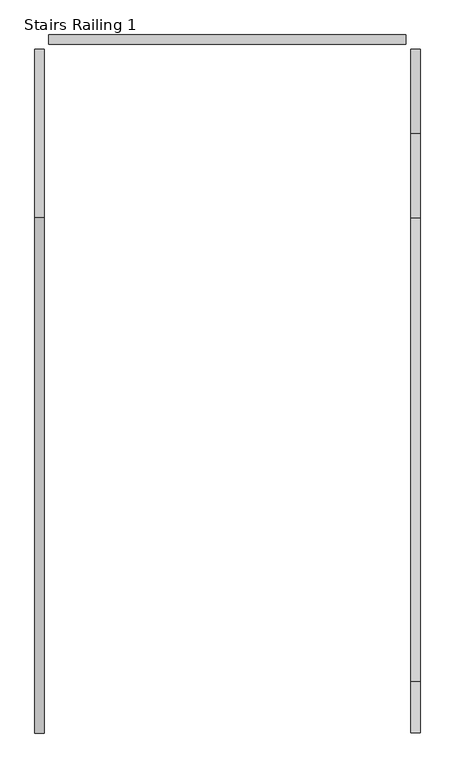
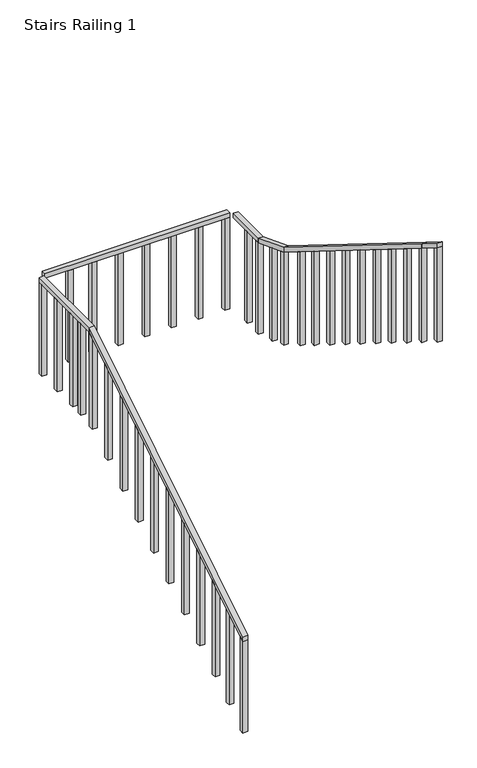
"""IFC4 building model written with IfcOpenShell, lengths in millimetres: railing geometry, Stairs Railing 1."""

from ifc_helpers import new_model, si_unit, frame, origin, place, context, project, spatial, polyline, outline, extrude, source, transform, mapped, element, save


def stairs_railing_1_87609967(model_context):
    return source(origin(), model_context, "Body", "SweptSolid", [
        extrude(outline(polyline([(13993.1758882, 2982.6857143), (13993.1758882, 2931.8857143), (11199.1758882, 1190.1714286), (11199.1758882, 1240.9714286), (13993.1758882, 2982.6857143)])), frame((1450.3543833, 0.0, 0.0), z_axis=(1.0, 0.0, 0.0), x_axis=(0.0, 1.0, 0.0)), (0.0, 0.0, 1.0), 50.8),
        extrude(outline(polyline([(11249.9758882, 1221.838961), (11249.9758882, 174.1714286), (11199.1758882, 174.1714286), (11199.1758882, 1190.1714286), (11249.9758882, 1221.838961)])), frame((1450.3543833, 0.0, 0.0), z_axis=(1.0, 0.0, 0.0), x_axis=(0.0, 1.0, 0.0)), (0.0, 0.0, 1.0), 50.8),
        extrude(outline(polyline([(11503.9758882, 1380.1766234), (11503.9758882, 332.5090909), (11453.1758882, 332.5090909), (11453.1758882, 1348.5090909), (11503.9758882, 1380.1766234)])), frame((1450.3543833, 0.0, 0.0), z_axis=(1.0, 0.0, 0.0), x_axis=(0.0, 1.0, 0.0)), (0.0, 0.0, 1.0), 50.8),
        extrude(outline(polyline([(11757.9758882, 1538.5142857), (11757.9758882, 490.8467532), (11707.1758882, 490.8467532), (11707.1758882, 1506.8467532), (11757.9758882, 1538.5142857)])), frame((1450.3543833, 0.0, 0.0), z_axis=(1.0, 0.0, 0.0), x_axis=(0.0, 1.0, 0.0)), (0.0, 0.0, 1.0), 50.8),
        extrude(outline(polyline([(12037.3758882, 1712.6857143), (12037.3758882, 665.0181818), (11986.5758882, 665.0181818), (11986.5758882, 1681.0181818), (12037.3758882, 1712.6857143)])), frame((1450.3543833, 0.0, 0.0), z_axis=(1.0, 0.0, 0.0), x_axis=(0.0, 1.0, 0.0)), (0.0, 0.0, 1.0), 50.8),
        extrude(outline(polyline([(12316.7758882, 1886.8571429), (12316.7758882, 839.1896104), (12265.9758882, 839.1896104), (12265.9758882, 1855.1896104), (12316.7758882, 1886.8571429)])), frame((1450.3543833, 0.0, 0.0), z_axis=(1.0, 0.0, 0.0), x_axis=(0.0, 1.0, 0.0)), (0.0, 0.0, 1.0), 50.8),
        extrude(outline(polyline([(12596.1758882, 2061.0285714), (12596.1758882, 1013.361039), (12545.3758882, 1013.361039), (12545.3758882, 2029.361039), (12596.1758882, 2061.0285714)])), frame((1450.3543833, 0.0, 0.0), z_axis=(1.0, 0.0, 0.0), x_axis=(0.0, 1.0, 0.0)), (0.0, 0.0, 1.0), 50.8),
        extrude(outline(polyline([(12875.5758882, 2235.2), (12875.5758882, 1187.5324675), (12824.7758882, 1187.5324675), (12824.7758882, 2203.5324675), (12875.5758882, 2235.2)])), frame((1450.3543833, 0.0, 0.0), z_axis=(1.0, 0.0, 0.0), x_axis=(0.0, 1.0, 0.0)), (0.0, 0.0, 1.0), 50.8),
        extrude(outline(polyline([(13154.9758882, 2409.3714286), (13154.9758882, 1361.7038961), (13104.1758882, 1361.7038961), (13104.1758882, 2377.7038961), (13154.9758882, 2409.3714286)])), frame((1450.3543833, 0.0, 0.0), z_axis=(1.0, 0.0, 0.0), x_axis=(0.0, 1.0, 0.0)), (0.0, 0.0, 1.0), 50.8),
        extrude(outline(polyline([(13434.3758882, 2583.5428571), (13434.3758882, 1535.8753247), (13383.5758882, 1535.8753247), (13383.5758882, 2551.8753247), (13434.3758882, 2583.5428571)])), frame((1450.3543833, 0.0, 0.0), z_axis=(1.0, 0.0, 0.0), x_axis=(0.0, 1.0, 0.0)), (0.0, 0.0, 1.0), 50.8),
        extrude(outline(polyline([(13713.7758882, 2757.7142857), (13713.7758882, 1710.0467532), (13662.9758882, 1710.0467532), (13662.9758882, 2726.0467532), (13713.7758882, 2757.7142857)])), frame((1450.3543833, 0.0, 0.0), z_axis=(1.0, 0.0, 0.0), x_axis=(0.0, 1.0, 0.0)), (0.0, 0.0, 1.0), 50.8),
        extrude(outline(polyline([(13993.1758882, 2931.8857143), (13993.1758882, 1884.2181818), (13942.3758882, 1884.2181818), (13942.3758882, 2900.2181818), (13993.1758882, 2931.8857143)])), frame((1450.3543833, 0.0, 0.0), z_axis=(1.0, 0.0, 0.0), x_axis=(0.0, 1.0, 0.0)), (0.0, 0.0, 1.0), 50.8),
        extrude(outline(polyline([(1450.3543833, 14907.5758882), (1501.1543833, 14907.5758882), (1501.1543833, 13993.1758882), (1450.3543833, 13993.1758882), (1450.3543833, 14907.5758882)])), frame((0.0, 0.0, 2931.8857143), z_axis=(0.0, 0.0, 1.0), x_axis=(1.0, 0.0, 0.0)), (0.0, 0.0, 1.0), 50.8),
        extrude(outline(polyline([(1501.1543833, 14145.5758882), (1450.3543833, 14145.5758882), (1450.3543833, 14196.3758882), (1501.1543833, 14196.3758882), (1501.1543833, 14145.5758882)])), frame((0.0, 0.0, 1915.8857143), z_axis=(0.0, 0.0, 1.0), x_axis=(1.0, 0.0, 0.0)), (0.0, 0.0, 1.0), 1016.0),
        extrude(outline(polyline([(1501.1543833, 14297.9758882), (1450.3543833, 14297.9758882), (1450.3543833, 14348.7758882), (1501.1543833, 14348.7758882), (1501.1543833, 14297.9758882)])), frame((0.0, 0.0, 1915.8857143), z_axis=(0.0, 0.0, 1.0), x_axis=(1.0, 0.0, 0.0)), (0.0, 0.0, 1.0), 1016.0),
        extrude(outline(polyline([(1501.1543833, 14577.3758882), (1450.3543833, 14577.3758882), (1450.3543833, 14628.1758882), (1501.1543833, 14628.1758882), (1501.1543833, 14577.3758882)])), frame((0.0, 0.0, 1915.8857143), z_axis=(0.0, 0.0, 1.0), x_axis=(1.0, 0.0, 0.0)), (0.0, 0.0, 1.0), 1016.0),
        extrude(outline(polyline([(1501.1543833, 14856.7758882), (1450.3543833, 14856.7758882), (1450.3543833, 14907.5758882), (1501.1543833, 14907.5758882), (1501.1543833, 14856.7758882)])), frame((0.0, 0.0, 1915.8857143), z_axis=(0.0, 0.0, 1.0), x_axis=(1.0, 0.0, 0.0)), (0.0, 0.0, 1.0), 1016.0),
        extrude(outline(polyline([(3464.956482, 14983.7758882), (3464.956482, 14932.9758882), (1526.5543833, 14932.9758882), (1526.5543833, 14983.7758882), (3464.956482, 14983.7758882)])), frame((0.0, 0.0, 2931.8857143), z_axis=(0.0, 0.0, 1.0), x_axis=(1.0, 0.0, 0.0)), (0.0, 0.0, 1.0), 50.8),
        extrude(outline(polyline([(1771.8554326, 14932.9758882), (1771.8554326, 14983.7758882), (1822.6554326, 14983.7758882), (1822.6554326, 14932.9758882), (1771.8554326, 14932.9758882)])), frame((0.0, 0.0, 1915.8857143), z_axis=(0.0, 0.0, 1.0), x_axis=(1.0, 0.0, 0.0)), (0.0, 0.0, 1.0), 1016.0),
        extrude(outline(polyline([(2017.156482, 14932.9758882), (2017.156482, 14983.7758882), (2067.956482, 14983.7758882), (2067.956482, 14932.9758882), (2017.156482, 14932.9758882)])), frame((0.0, 0.0, 1915.8857143), z_axis=(0.0, 0.0, 1.0), x_axis=(1.0, 0.0, 0.0)), (0.0, 0.0, 1.0), 1016.0),
        extrude(outline(polyline([(2296.556482, 14932.9758882), (2296.556482, 14983.7758882), (2347.356482, 14983.7758882), (2347.356482, 14932.9758882), (2296.556482, 14932.9758882)])), frame((0.0, 0.0, 1915.8857143), z_axis=(0.0, 0.0, 1.0), x_axis=(1.0, 0.0, 0.0)), (0.0, 0.0, 1.0), 1016.0),
        extrude(outline(polyline([(2575.956482, 14932.9758882), (2575.956482, 14983.7758882), (2626.756482, 14983.7758882), (2626.756482, 14932.9758882), (2575.956482, 14932.9758882)])), frame((0.0, 0.0, 1915.8857143), z_axis=(0.0, 0.0, 1.0), x_axis=(1.0, 0.0, 0.0)), (0.0, 0.0, 1.0), 1016.0),
        extrude(outline(polyline([(2855.356482, 14932.9758882), (2855.356482, 14983.7758882), (2906.156482, 14983.7758882), (2906.156482, 14932.9758882), (2855.356482, 14932.9758882)])), frame((0.0, 0.0, 1915.8857143), z_axis=(0.0, 0.0, 1.0), x_axis=(1.0, 0.0, 0.0)), (0.0, 0.0, 1.0), 1016.0),
        extrude(outline(polyline([(3134.756482, 14932.9758882), (3134.756482, 14983.7758882), (3185.556482, 14983.7758882), (3185.556482, 14932.9758882), (3134.756482, 14932.9758882)])), frame((0.0, 0.0, 1915.8857143), z_axis=(0.0, 0.0, 1.0), x_axis=(1.0, 0.0, 0.0)), (0.0, 0.0, 1.0), 1016.0),
        extrude(outline(polyline([(3414.156482, 14932.9758882), (3414.156482, 14983.7758882), (3464.956482, 14983.7758882), (3464.956482, 14932.9758882), (3414.156482, 14932.9758882)])), frame((0.0, 0.0, 1915.8857143), z_axis=(0.0, 0.0, 1.0), x_axis=(1.0, 0.0, 0.0)), (0.0, 0.0, 1.0), 1016.0),
        extrude(outline(polyline([(3541.156482, 14450.3758882), (3490.356482, 14450.3758882), (3490.356482, 14907.5758882), (3541.156482, 14907.5758882), (3541.156482, 14450.3758882)])), frame((0.0, 0.0, 2931.8857143), z_axis=(0.0, 0.0, 1.0), x_axis=(1.0, 0.0, 0.0)), (0.0, 0.0, 1.0), 50.8),
        extrude(outline(polyline([(3490.356482, 14704.3758882), (3541.156482, 14704.3758882), (3541.156482, 14653.5758882), (3490.356482, 14653.5758882), (3490.356482, 14704.3758882)])), frame((0.0, 0.0, 1915.8857143), z_axis=(0.0, 0.0, 1.0), x_axis=(1.0, 0.0, 0.0)), (0.0, 0.0, 1.0), 1016.0),
        extrude(outline(polyline([(3490.356482, 14501.1758882), (3541.156482, 14501.1758882), (3541.156482, 14450.3758882), (3490.356482, 14450.3758882), (3490.356482, 14501.1758882)])), frame((0.0, 0.0, 1915.8857143), z_axis=(0.0, 0.0, 1.0), x_axis=(1.0, 0.0, 0.0)), (0.0, 0.0, 1.0), 1016.0),
        extrude(outline(polyline([(13993.1758882, 3106.0571429), (13993.1758882, 3156.8571429), (14450.3758882, 2982.6857143), (14450.3758882, 2931.8857143), (13993.1758882, 3106.0571429)])), frame((3490.356482, 0.0, 0.0), z_axis=(1.0, 0.0, 0.0), x_axis=(0.0, 1.0, 0.0)), (0.0, 0.0, 1.0), 50.8),
        extrude(outline(polyline([(14247.1758882, 3009.2952381), (14247.1758882, 1993.2952381), (14196.3758882, 1993.2952381), (14196.3758882, 3028.647619), (14247.1758882, 3009.2952381)])), frame((3490.356482, 0.0, 0.0), z_axis=(1.0, 0.0, 0.0), x_axis=(0.0, 1.0, 0.0)), (0.0, 0.0, 1.0), 50.8),
        extrude(outline(polyline([(14043.9758882, 3086.7047619), (14043.9758882, 2070.7047619), (13993.1758882, 2070.7047619), (13993.1758882, 3106.0571429), (14043.9758882, 3086.7047619)])), frame((3490.356482, 0.0, 0.0), z_axis=(1.0, 0.0, 0.0), x_axis=(0.0, 1.0, 0.0)), (0.0, 0.0, 1.0), 50.8),
        extrude(outline(polyline([(11478.5758882, 4673.6), (11478.5758882, 4724.4), (13993.1758882, 3156.8571429), (13993.1758882, 3106.0571429), (11478.5758882, 4673.6)])), frame((3490.356482, 0.0, 0.0), z_axis=(1.0, 0.0, 0.0), x_axis=(0.0, 1.0, 0.0)), (0.0, 0.0, 1.0), 50.8),
        extrude(outline(polyline([(13739.1758882, 3264.3948052), (13739.1758882, 2248.3948052), (13688.3758882, 2248.3948052), (13688.3758882, 3296.0623377), (13739.1758882, 3264.3948052)])), frame((3490.356482, 0.0, 0.0), z_axis=(1.0, 0.0, 0.0), x_axis=(0.0, 1.0, 0.0)), (0.0, 0.0, 1.0), 50.8),
        extrude(outline(polyline([(13485.1758882, 3422.7324675), (13485.1758882, 2406.7324675), (13434.3758882, 2406.7324675), (13434.3758882, 3454.4), (13485.1758882, 3422.7324675)])), frame((3490.356482, 0.0, 0.0), z_axis=(1.0, 0.0, 0.0), x_axis=(0.0, 1.0, 0.0)), (0.0, 0.0, 1.0), 50.8),
        extrude(outline(polyline([(13205.7758882, 3596.9038961), (13205.7758882, 2580.9038961), (13154.9758882, 2580.9038961), (13154.9758882, 3628.5714286), (13205.7758882, 3596.9038961)])), frame((3490.356482, 0.0, 0.0), z_axis=(1.0, 0.0, 0.0), x_axis=(0.0, 1.0, 0.0)), (0.0, 0.0, 1.0), 50.8),
        extrude(outline(polyline([(12926.3758882, 3771.0753247), (12926.3758882, 2755.0753247), (12875.5758882, 2755.0753247), (12875.5758882, 3802.7428571), (12926.3758882, 3771.0753247)])), frame((3490.356482, 0.0, 0.0), z_axis=(1.0, 0.0, 0.0), x_axis=(0.0, 1.0, 0.0)), (0.0, 0.0, 1.0), 50.8),
        extrude(outline(polyline([(12646.9758882, 3945.2467532), (12646.9758882, 2929.2467532), (12596.1758882, 2929.2467532), (12596.1758882, 3976.9142857), (12646.9758882, 3945.2467532)])), frame((3490.356482, 0.0, 0.0), z_axis=(1.0, 0.0, 0.0), x_axis=(0.0, 1.0, 0.0)), (0.0, 0.0, 1.0), 50.8),
        extrude(outline(polyline([(12367.5758882, 4119.4181818), (12367.5758882, 3103.4181818), (12316.7758882, 3103.4181818), (12316.7758882, 4151.0857143), (12367.5758882, 4119.4181818)])), frame((3490.356482, 0.0, 0.0), z_axis=(1.0, 0.0, 0.0), x_axis=(0.0, 1.0, 0.0)), (0.0, 0.0, 1.0), 50.8),
        extrude(outline(polyline([(12088.1758882, 4293.5896104), (12088.1758882, 3277.5896104), (12037.3758882, 3277.5896104), (12037.3758882, 4325.2571429), (12088.1758882, 4293.5896104)])), frame((3490.356482, 0.0, 0.0), z_axis=(1.0, 0.0, 0.0), x_axis=(0.0, 1.0, 0.0)), (0.0, 0.0, 1.0), 50.8),
        extrude(outline(polyline([(11808.7758882, 4467.761039), (11808.7758882, 3451.761039), (11757.9758882, 3451.761039), (11757.9758882, 4499.4285714), (11808.7758882, 4467.761039)])), frame((3490.356482, 0.0, 0.0), z_axis=(1.0, 0.0, 0.0), x_axis=(0.0, 1.0, 0.0)), (0.0, 0.0, 1.0), 50.8),
        extrude(outline(polyline([(11529.3758882, 4641.9324675), (11529.3758882, 3625.9324675), (11478.5758882, 3625.9324675), (11478.5758882, 4673.6), (11529.3758882, 4641.9324675)])), frame((3490.356482, 0.0, 0.0), z_axis=(1.0, 0.0, 0.0), x_axis=(0.0, 1.0, 0.0)), (0.0, 0.0, 1.0), 50.8),
        extrude(outline(polyline([(11199.1758882, 4847.7714286), (11199.1758882, 4898.5714286), (11478.5758882, 4724.4), (11478.5758882, 4673.6), (11199.1758882, 4847.7714286)])), frame((3490.356482, 0.0, 0.0), z_axis=(1.0, 0.0, 0.0), x_axis=(0.0, 1.0, 0.0)), (0.0, 0.0, 1.0), 50.8),
        extrude(outline(polyline([(11249.9758882, 4816.1038961), (11249.9758882, 3800.1038961), (11199.1758882, 3800.1038961), (11199.1758882, 4847.7714286), (11249.9758882, 4816.1038961)])), frame((3490.356482, 0.0, 0.0), z_axis=(1.0, 0.0, 0.0), x_axis=(0.0, 1.0, 0.0)), (0.0, 0.0, 1.0), 50.8),
    ])


if __name__ == "__main__":
    model = new_model("IFC4")
    model_context = context("Model", 3, world=origin())
    ifc_project = project(units=[si_unit("LENGTHUNIT", "METRE", prefix="MILLI")], contexts=[model_context])
    site = spatial("IfcSite", under=ifc_project)
    building = spatial("IfcBuilding", under=site)
    placement = place(None, origin())
    stairs_railing_1_shape = stairs_railing_1_87609967(model_context)
    element("IfcRailing", 1, ObjectType="Stairs Railing 1", at=placement, inside=building, context=model_context, shape_type="MappedRepresentation", body=[
        mapped(stairs_railing_1_shape, transform((0.0, 0.0, 0.0), x_axis=(1.0, 0.0, 0.0), y_axis=(0.0, 1.0, 0.0), z_axis=(0.0, 0.0, 1.0))),
    ])
    save(model, "model.ifc")
